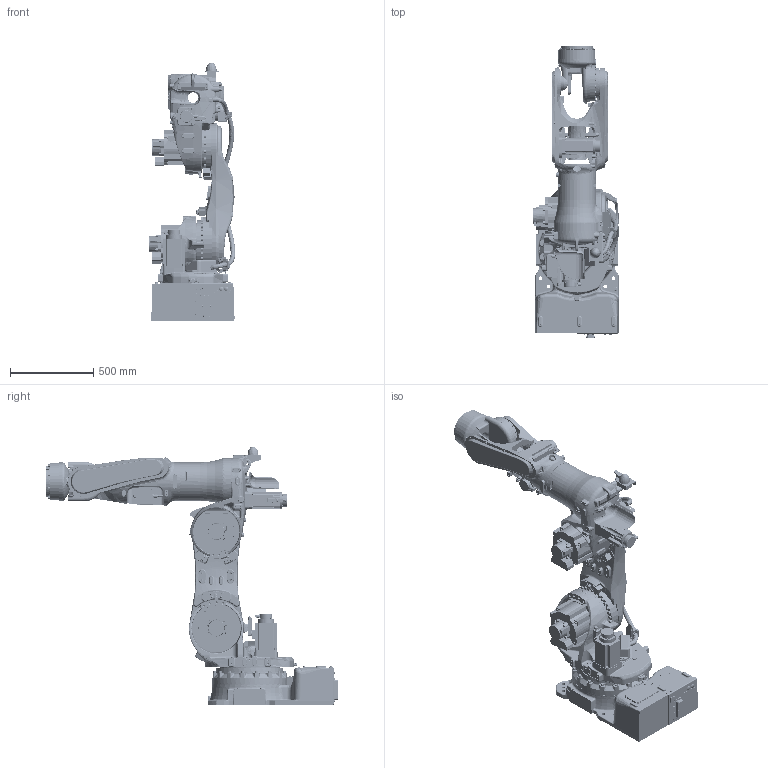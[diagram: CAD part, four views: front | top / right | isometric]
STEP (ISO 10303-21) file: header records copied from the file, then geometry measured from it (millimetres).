
FILE_DESCRIPTION(('CATIA V5 STEP Exchange'),'2;1');
FILE_NAME('C:\Users\nakase_mika\Desktop\STEP_BXP110S-A011_210204\BXP110S-A001\BXP110S-A001.stp','2021-02-26T03:38:39+00:00',('none'),('none'),'CATIA Version 5-6 Release 2016 SP6 HF14','CATIA V5 STEP AP203','none');
FILE_SCHEMA(('CONFIG_CONTROL_DESIGN'));
Products named in the file (1): BXP110S-A001
Assembly tree (7 placements, depth 2):
  BXP110S-A001
    #57
    #57540
    #135349
    #221047
    #313632
    #416348
    #443673
Bounding box: 518.65 x 1757.3 x 1555.5 mm (x, y, z)
Volume: 181273265.3 mm3; surface area: 8370879.4 mm2
Topology: 30 solids, 30 shells, 9545 faces, 24088 edges, 14672 vertices
Faces by surface type: plane 2914, cylinder 2868, bspline 1968, cone 713, torus 489, sphere 284, extrusion 214, revolution 95
Entity records: 447351 total; most frequent: CARTESIAN_POINT 248960, ORIENTED_EDGE 46848, DIRECTION 28445, EDGE_CURVE 23424, VERTEX_POINT 14672, AXIS2_PLACEMENT_3D 13036, EDGE_LOOP 10454, ADVANCED_FACE 9545
